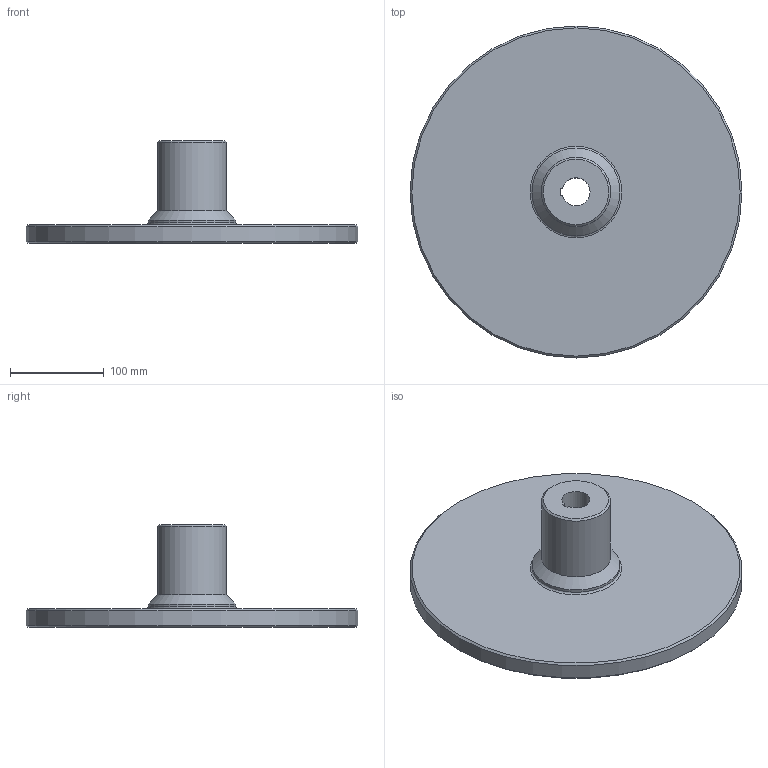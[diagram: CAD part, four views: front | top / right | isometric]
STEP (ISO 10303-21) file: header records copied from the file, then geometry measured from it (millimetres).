
FILE_DESCRIPTION(/* description */ (''),/* implementation_level */ '2;1');
FILE_NAME(/* name */ 'C:\Users\vlakrc01\Desktop\COUPLINGS\04 RKX STEP\RKMWD 20\76550.stp',/* time_stamp */ '2017-03-15T13:30:48+01:00',/* author */ ('vlakrc01'),/* organization */ (''),/* preprocessor_version */ 'ST-DEVELOPER v16.1',/* originating_system */ 'Autodesk Inventor 2016',/* authorisation */ '');
FILE_SCHEMA (('AUTOMOTIVE_DESIGN { 1 0 10303 214 3 1 1 }'));
Length unit declared in the file: millimetre
Products named in the file (1): 76550_Shrinkwrap_1
Bounding box: 355 x 355 x 110 mm (x, y, z)
Volume: 2308255.4 mm3; surface area: 247293.1 mm2
Topology: 1 solids, 3 shells, 25 faces, 55 edges, 35 vertices
Faces by surface type: cone 9, plane 8, cylinder 6, bspline 1, torus 1
Full cylindrical faces by diameter (mm): 70 x2, 74 x1, 94 x1, 355 x1
Entity records: 829 total; most frequent: CARTESIAN_POINT 284, DIRECTION 101, ORIENTED_EDGE 70, EDGE_LOOP 45, AXIS2_PLACEMENT_3D 45, EDGE_CURVE 35, VERTEX_POINT 30, STYLED_ITEM 26
